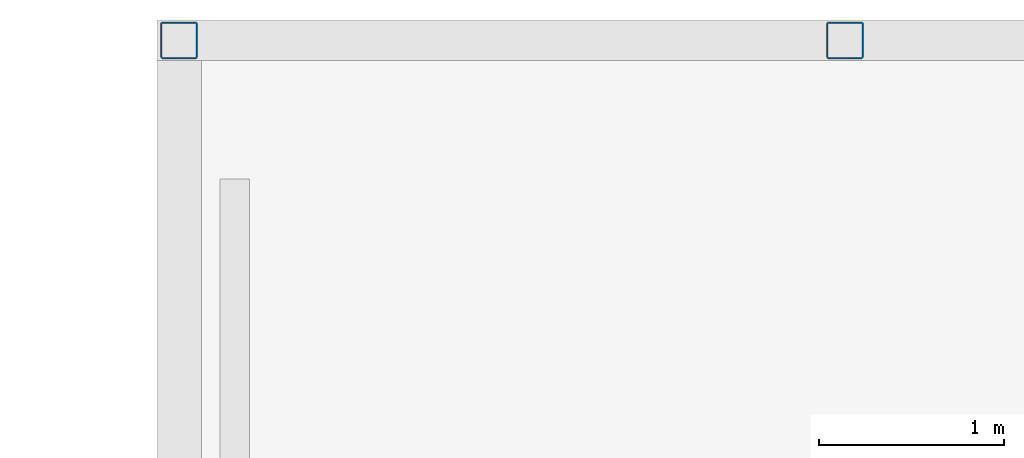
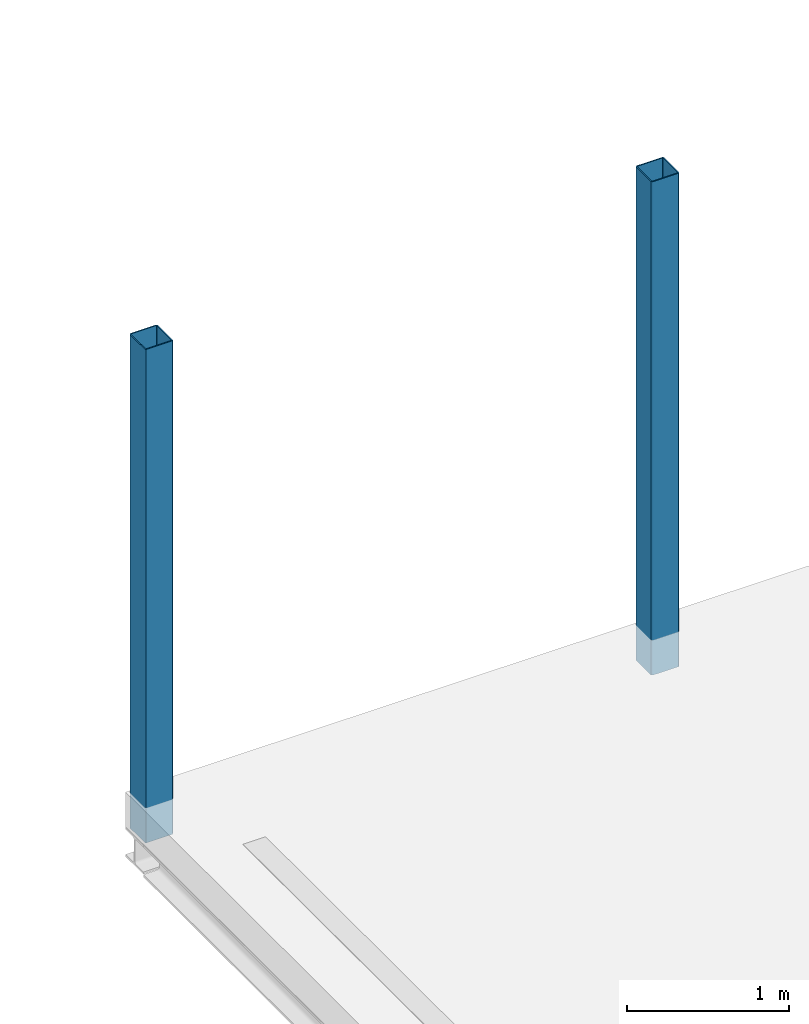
# One storey, part 3 of 7: 2 columns.
"""IFC2X3 building model written with IfcOpenShell, lengths in millimetres."""

from ifc_helpers import new_model, entity, si_unit, converted_unit, derived_unit, direction, frame, frame_2d, origin, place, context, subcontext, project, spatial, polyline, circle_curve, parameter, trimmed, segment, composite_curve, outline, extrude, source, transform, mapped, material, type_object, type_shapes, element, save


model = new_model("IFC2X3")

# Units and contexts
model_context = context("Model", 3, precision=0.01, world=origin(), true_north=direction((6.123031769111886e-17, 1.0)))
body_context = subcontext(model_context, "Body", "Model", "MODEL_VIEW")
ifc_project = project(units=[si_unit("LENGTHUNIT", "METRE", prefix="MILLI"), si_unit("AREAUNIT", "SQUARE_METRE"), si_unit("VOLUMEUNIT", "CUBIC_METRE"), converted_unit("PLANEANGLEUNIT", "DEGREE", entity("IfcPlaneAngleMeasure", 0.017453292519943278), si_unit("PLANEANGLEUNIT", "RADIAN"), dimensions=[0, 0, 0, 0, 0, 0, 0]), si_unit("MASSUNIT", "GRAM", prefix="KILO"), derived_unit("MASSDENSITYUNIT", [(si_unit("MASSUNIT", "GRAM", prefix="KILO"), 1), (si_unit("LENGTHUNIT", "METRE"), -3)]), derived_unit("IONCONCENTRATIONUNIT", [(si_unit("MASSUNIT", "GRAM", prefix="KILO"), 1), (si_unit("LENGTHUNIT", "METRE"), -3)]), derived_unit("MOMENTOFINERTIAUNIT", [(si_unit("LENGTHUNIT", "METRE"), 4)]), si_unit("TIMEUNIT", "SECOND"), si_unit("FREQUENCYUNIT", "HERTZ"), si_unit("THERMODYNAMICTEMPERATUREUNIT", "DEGREE_CELSIUS"), derived_unit("THERMALTRANSMITTANCEUNIT", [(si_unit("MASSUNIT", "GRAM", prefix="KILO"), 1), (si_unit("THERMODYNAMICTEMPERATUREUNIT", "KELVIN"), -1), (si_unit("TIMEUNIT", "SECOND"), -3)]), derived_unit("THERMALCONDUCTANCEUNIT", [(si_unit("MASSUNIT", "GRAM", prefix="KILO"), 1), (si_unit("THERMODYNAMICTEMPERATUREUNIT", "KELVIN"), -1), (si_unit("TIMEUNIT", "SECOND"), -3), (si_unit("LENGTHUNIT", "METRE"), 1)]), derived_unit("VOLUMETRICFLOWRATEUNIT", [(si_unit("LENGTHUNIT", "METRE", prefix="DECI"), 3), (si_unit("TIMEUNIT", "SECOND"), -1)]), derived_unit("MASSFLOWRATEUNIT", [(si_unit("MASSUNIT", "GRAM", prefix="KILO"), 1), (si_unit("TIMEUNIT", "SECOND"), -1)]), derived_unit("ROTATIONALFREQUENCYUNIT", [(si_unit("TIMEUNIT", "SECOND"), -1)]), si_unit("ELECTRICCURRENTUNIT", "AMPERE"), si_unit("ELECTRICVOLTAGEUNIT", "VOLT"), si_unit("POWERUNIT", "WATT"), si_unit("FORCEUNIT", "NEWTON", prefix="KILO"), si_unit("ILLUMINANCEUNIT", "LUX"), si_unit("LUMINOUSFLUXUNIT", "LUMEN"), si_unit("LUMINOUSINTENSITYUNIT", "CANDELA"), si_unit("ENERGYUNIT", "JOULE"), derived_unit("USERDEFINED", [(si_unit("MASSUNIT", "GRAM", prefix="KILO"), -1), (si_unit("LENGTHUNIT", "METRE"), -2), (si_unit("TIMEUNIT", "SECOND"), 3), (si_unit("LUMINOUSFLUXUNIT", "LUMEN"), 1)]), derived_unit("USERDEFINED", [(si_unit("MASSUNIT", "GRAM", prefix="KILO"), 1), (si_unit("TIMEUNIT", "SECOND"), -3), (si_unit("LENGTHUNIT", "METRE"), 3), (si_unit("ELECTRICCURRENTUNIT", "AMPERE"), -2)]), derived_unit("SOUNDPOWERUNIT", [(si_unit("MASSUNIT", "GRAM", prefix="KILO"), 1), (si_unit("TIMEUNIT", "SECOND"), -3), (si_unit("LENGTHUNIT", "METRE"), 2)]), derived_unit("SOUNDPRESSUREUNIT", [(si_unit("MASSUNIT", "GRAM", prefix="KILO"), 1), (si_unit("LENGTHUNIT", "METRE"), -1), (si_unit("TIMEUNIT", "SECOND"), -2)]), derived_unit("LINEARVELOCITYUNIT", [(si_unit("LENGTHUNIT", "METRE"), 1), (si_unit("TIMEUNIT", "SECOND"), -1)]), si_unit("PRESSUREUNIT", "PASCAL"), derived_unit("USERDEFINED", [(si_unit("MASSUNIT", "GRAM", prefix="KILO"), 1), (si_unit("LENGTHUNIT", "METRE"), -2), (si_unit("TIMEUNIT", "SECOND"), -2)]), derived_unit("LINEARFORCEUNIT", [(si_unit("MASSUNIT", "GRAM", prefix="KILO"), 1), (si_unit("TIMEUNIT", "SECOND"), -2)]), derived_unit("PLANARFORCEUNIT", [(si_unit("MASSUNIT", "GRAM", prefix="KILO"), 1), (si_unit("LENGTHUNIT", "METRE"), -1), (si_unit("TIMEUNIT", "SECOND"), -2)]), derived_unit("SPECIFICHEATCAPACITYUNIT", [(si_unit("THERMODYNAMICTEMPERATUREUNIT", "KELVIN"), -1), (si_unit("LENGTHUNIT", "METRE"), 2), (si_unit("TIMEUNIT", "SECOND"), -2)]), derived_unit("HEATFLUXDENSITYUNIT", [(si_unit("MASSUNIT", "GRAM", prefix="KILO"), 1), (si_unit("TIMEUNIT", "SECOND"), -3)]), derived_unit("HEATINGVALUEUNIT", [(si_unit("LENGTHUNIT", "METRE"), 2), (si_unit("TIMEUNIT", "SECOND"), -2)]), derived_unit("VAPORPERMEABILITYUNIT", [(si_unit("LENGTHUNIT", "METRE"), -1), (si_unit("TIMEUNIT", "SECOND"), 1)]), derived_unit("DYNAMICVISCOSITYUNIT", [(si_unit("MASSUNIT", "GRAM", prefix="KILO"), 1), (si_unit("TIMEUNIT", "SECOND"), -1), (si_unit("LENGTHUNIT", "METRE"), -1)]), derived_unit("THERMALEXPANSIONCOEFFICIENTUNIT", [(si_unit("THERMODYNAMICTEMPERATUREUNIT", "KELVIN"), -1)]), derived_unit("MODULUSOFELASTICITYUNIT", [(si_unit("MASSUNIT", "GRAM", prefix="KILO"), 1), (si_unit("LENGTHUNIT", "METRE"), -1), (si_unit("TIMEUNIT", "SECOND"), -2)]), derived_unit("ISOTHERMALMOISTURECAPACITYUNIT", [(si_unit("MASSUNIT", "GRAM", prefix="KILO"), -1), (si_unit("LENGTHUNIT", "METRE"), 3)]), derived_unit("MOISTUREDIFFUSIVITYUNIT", [(si_unit("TIMEUNIT", "SECOND"), -1), (si_unit("LENGTHUNIT", "METRE"), 2)]), derived_unit("MASSPERLENGTHUNIT", [(si_unit("MASSUNIT", "GRAM", prefix="KILO"), 1), (si_unit("LENGTHUNIT", "METRE"), -1)]), derived_unit("THERMALRESISTANCEUNIT", [(si_unit("MASSUNIT", "GRAM", prefix="KILO"), -1), (si_unit("TIMEUNIT", "SECOND"), 3), (si_unit("THERMODYNAMICTEMPERATUREUNIT", "KELVIN"), 1)]), derived_unit("ACCELERATIONUNIT", [(si_unit("LENGTHUNIT", "METRE"), 1), (si_unit("TIMEUNIT", "SECOND"), -2)]), derived_unit("ANGULARVELOCITYUNIT", [(si_unit("TIMEUNIT", "SECOND"), -1), (si_unit("PLANEANGLEUNIT", "RADIAN"), 1)]), derived_unit("LINEARSTIFFNESSUNIT", [(si_unit("MASSUNIT", "GRAM", prefix="KILO"), 1), (si_unit("TIMEUNIT", "SECOND"), -2)]), derived_unit("WARPINGCONSTANTUNIT", [(si_unit("LENGTHUNIT", "METRE"), 6)]), derived_unit("LINEARMOMENTUNIT", [(si_unit("MASSUNIT", "GRAM", prefix="KILO"), 1), (si_unit("LENGTHUNIT", "METRE"), 1), (si_unit("TIMEUNIT", "SECOND"), -2)]), derived_unit("TORQUEUNIT", [(si_unit("MASSUNIT", "GRAM", prefix="KILO"), 1), (si_unit("LENGTHUNIT", "METRE"), 2), (si_unit("TIMEUNIT", "SECOND"), -2)])], contexts=[model_context])

# Site, building, storey
site_placement = place(None, origin())
site = spatial("IfcSite", under=ifc_project, at=site_placement, Name="Default", CompositionType="ELEMENT")
building_placement = place(site_placement, origin())
building = spatial("IfcBuilding", under=site, at=building_placement, CompositionType="ELEMENT")
storey_placement = place(building_placement, frame((0.0, 0.0, 4000.0)))
storey = spatial("IfcBuildingStorey", under=building, at=storey_placement, Name="01 eerste verdieping", CompositionType="ELEMENT", Elevation=4000.0000000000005)

# Columns
ifc_material = material(Name="VRI_staal")
column_type = type_object("IfcColumnType", Name="28_SC_VRI_kolom_staal_koker:K200x200x8", PredefinedType="COLUMN", material=ifc_material)
shared_shape = source(origin(), body_context, "Body", "SweptSolid", [
    extrude(outline(composite_curve([segment(polyline([(-88.0, -100.0), (88.0, -100.0)]), True, "CONTINUOUS"), segment(trimmed(circle_curve(frame_2d((88.0, -88.0), x_axis=(0.0, -1.0)), 12.0), [parameter(359.9999999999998)], [parameter(89.99999999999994)], True, "PARAMETER"), True, "CONTINUOUS"), segment(polyline([(100.0, -88.0), (100.0, 88.0)]), True, "CONTINUOUS"), segment(trimmed(circle_curve(frame_2d((88.0, 88.0), x_axis=(0.0, -1.0)), 12.0), [parameter(90.00000000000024)], [parameter(180.0000000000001)], True, "PARAMETER"), True, "CONTINUOUS"), segment(polyline([(88.0, 100.0), (-88.0, 100.0)]), True, "CONTINUOUS"), segment(trimmed(circle_curve(frame_2d((-88.0, 88.0), x_axis=(0.0, -1.0)), 12.0), [parameter(179.99999999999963)], [parameter(269.9999999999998)], True, "PARAMETER"), True, "CONTINUOUS"), segment(polyline([(-100.0, 88.0), (-100.0, -88.0)]), True, "CONTINUOUS"), segment(trimmed(circle_curve(frame_2d((-88.0, -88.0), x_axis=(0.0, -1.0)), 12.0), [parameter(270.00000000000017)], [parameter(1.0177774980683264e-13)], True, "PARAMETER"), True, "CONTINUOUS")], self_intersect=False), holes=[composite_curve([segment(trimmed(circle_curve(frame_2d((-88.0, 88.0), x_axis=(0.0, -1.0)), 4.0), [parameter(180.0000000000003)], [parameter(270.0000000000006)], True, "PARAMETER"), False, "CONTINUOUS"), segment(polyline([(-88.0, 92.0), (88.0, 92.0)]), True, "CONTINUOUS"), segment(trimmed(circle_curve(frame_2d((88.0, 88.0), x_axis=(0.0, -1.0)), 4.0), [parameter(90.00000000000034)], [parameter(179.99999999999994)], True, "PARAMETER"), False, "CONTINUOUS"), segment(polyline([(92.0, 88.0), (92.0, -88.0)]), True, "CONTINUOUS"), segment(trimmed(circle_curve(frame_2d((88.0, -88.0), x_axis=(0.0, -1.0)), 4.0), [parameter(5.088887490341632e-13)], [parameter(90.00000000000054)], True, "PARAMETER"), False, "CONTINUOUS"), segment(polyline([(88.0, -92.0), (-88.0, -92.0)]), True, "CONTINUOUS"), segment(trimmed(circle_curve(frame_2d((-88.0, -88.0), x_axis=(0.0, -1.0)), 4.0), [parameter(269.9999999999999)], [parameter(0.0)], True, "PARAMETER"), False, "CONTINUOUS"), segment(polyline([(-92.0, -88.0), (-92.0, 88.0)]), True, "CONTINUOUS")], self_intersect=False)]), frame((-5.0, 0.0, 3655.0), z_axis=(0.0, 0.0, 1.0), x_axis=(0.0, 1.0, 0.0)), (0.0, 0.0, 1.0), 3709.9999999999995),
])
type_shapes(column_type, [shared_shape])
for number, where in (
    (1, (33405.0, 40000.0, -4000.0)),
    (2, (37005.0, 40000.0, -4000.0)),
):
    element("IfcColumn", number, at=place(storey_placement, frame(where)), inside=storey, type_object=column_type, material=ifc_material, Name="28_SC_VRI_kolom_staal_koker:K200x200x8", ObjectType="28_SC_VRI_kolom_staal_koker:K200x200x8", context=body_context, shape_type="MappedRepresentation", body=[
        mapped(shared_shape, transform((0.0, 0.0, 0.0), scale=1.0)),
    ])

save(model, "model.ifc")
